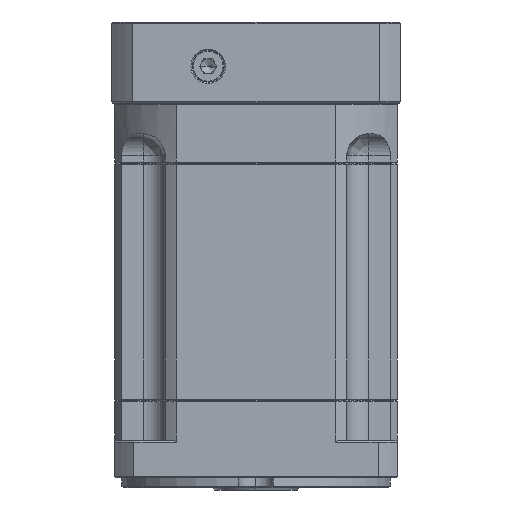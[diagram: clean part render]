
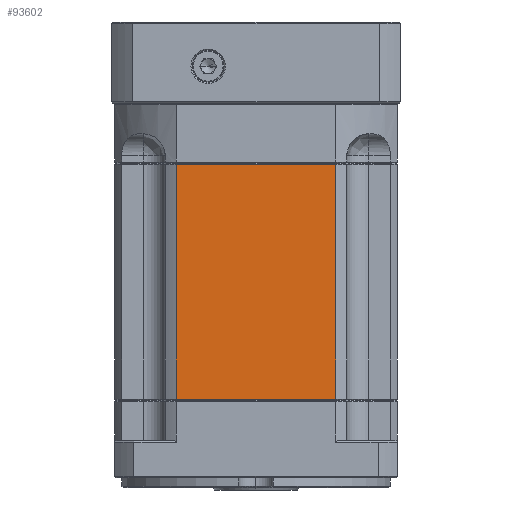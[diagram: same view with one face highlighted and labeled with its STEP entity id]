
A CAD part, left-side view. The second image highlights one B-rep face of the part: STEP entity #93602.
In plain terms, the highlighted planar face has unit normal (-1, 0, 0).
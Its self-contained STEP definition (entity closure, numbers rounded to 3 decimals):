
#1999 = DIRECTION ( 'NONE',  ( 0., 1., 0. ) ) ;
#3974 = LINE ( 'NONE', #94725, #72614 ) ;
#4976 = LINE ( 'NONE', #18301, #97341 ) ;
#7079 = VECTOR ( 'NONE', #112089, 1000. ) ;
#10628 = PLANE ( 'NONE',  #82307 ) ;
#18301 = CARTESIAN_POINT ( 'NONE',  ( 13.173, 46.164, -370.689 ) ) ;
#18638 = ORIENTED_EDGE ( 'NONE', *, *, #79887, .F. ) ;
#23829 = EDGE_CURVE ( 'NONE', #40987, #33818, #28664, .T. ) ;
#28664 = LINE ( 'NONE', #49915, #49651 ) ;
#30936 = LINE ( 'NONE', #67948, #7079 ) ;
#33818 = VERTEX_POINT ( 'NONE', #36825 ) ;
#36825 = CARTESIAN_POINT ( 'NONE',  ( 13.173, 110.963, -86.146 ) ) ;
#40242 = ORIENTED_EDGE ( 'NONE', *, *, #70334, .F. ) ;
#40987 = VERTEX_POINT ( 'NONE', #101007 ) ;
#44106 = EDGE_CURVE ( 'NONE', #33818, #88353, #30936, .T. ) ;
#44553 = ORIENTED_EDGE ( 'NONE', *, *, #23829, .F. ) ;
#49651 = VECTOR ( 'NONE', #58862, 1000. ) ;
#49915 = CARTESIAN_POINT ( 'NONE',  ( 13.173, 110.963, -85.646 ) ) ;
#55709 = DIRECTION ( 'NONE',  ( 1., 0., 0. ) ) ;
#58862 = DIRECTION ( 'NONE',  ( 0., 0., 1. ) ) ;
#67948 = CARTESIAN_POINT ( 'NONE',  ( 13.173, 78.563, -86.146 ) ) ;
#70334 = EDGE_CURVE ( 'NONE', #88353, #80165, #4976, .T. ) ;
#72190 = CARTESIAN_POINT ( 'NONE',  ( 13.173, 46.164, -86.146 ) ) ;
#72614 = VECTOR ( 'NONE', #95135, 1000. ) ;
#73778 = FACE_OUTER_BOUND ( 'NONE', #100727, .T. ) ;
#78318 = ORIENTED_EDGE ( 'NONE', *, *, #44106, .F. ) ;
#79887 = EDGE_CURVE ( 'NONE', #80165, #40987, #3974, .T. ) ;
#80165 = VERTEX_POINT ( 'NONE', #85168 ) ;
#82307 = AXIS2_PLACEMENT_3D ( 'NONE', #109105, #55709, #1999 ) ;
#85168 = CARTESIAN_POINT ( 'NONE',  ( 13.173, 46.164, -181.646 ) ) ;
#88353 = VERTEX_POINT ( 'NONE', #72190 ) ;
#89832 = DIRECTION ( 'NONE',  ( 0., 0., -1. ) ) ;
#93602 = ADVANCED_FACE ( 'NONE', ( #73778 ), #10628, .F. ) ;
#94725 = CARTESIAN_POINT ( 'NONE',  ( 13.173, 21.063, -181.646 ) ) ;
#95135 = DIRECTION ( 'NONE',  ( 0., 1., 0. ) ) ;
#97341 = VECTOR ( 'NONE', #89832, 1000. ) ;
#100727 = EDGE_LOOP ( 'NONE', ( #18638, #40242, #78318, #44553 ) ) ;
#101007 = CARTESIAN_POINT ( 'NONE',  ( 13.173, 110.963, -181.646 ) ) ;
#109105 = CARTESIAN_POINT ( 'NONE',  ( 13.173, 21.063, -85.646 ) ) ;
#112089 = DIRECTION ( 'NONE',  ( 0., -1., 0. ) ) ;
